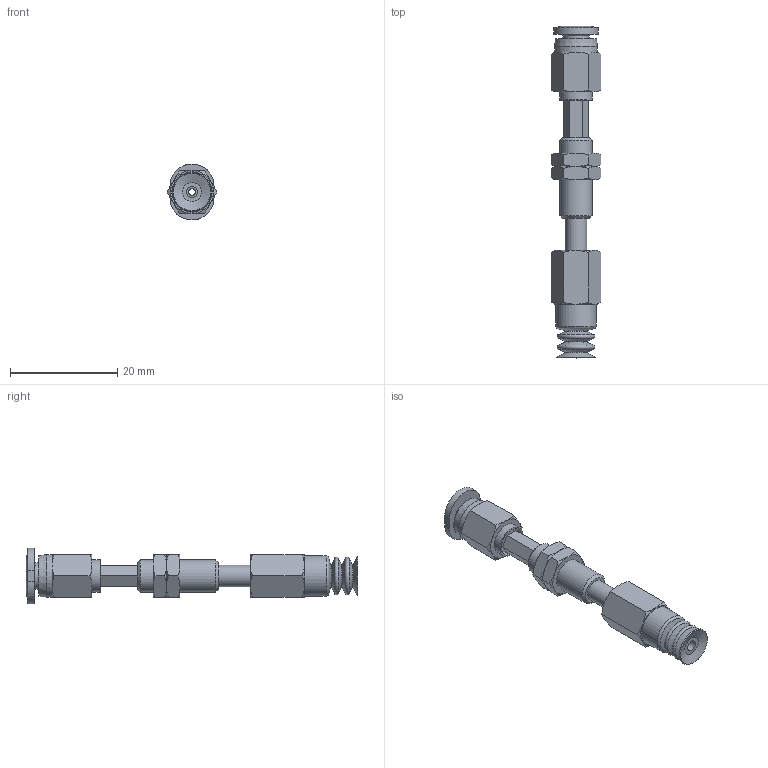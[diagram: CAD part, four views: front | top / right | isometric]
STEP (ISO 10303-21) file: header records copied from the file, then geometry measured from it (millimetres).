
FILE_DESCRIPTION(('STEP AP203'),'1');
FILE_NAME('-O.stp','2025-08-27T01:59:32',(' '),(' '),'Spatial InterOp 3D',' ',' ');
FILE_SCHEMA(('CONFIG_CONTROL_DESIGN'));
Length unit declared in the file: millimetre
Products named in the file (7): BNABPCTS-7-6-※-O; ADAPTER; NAPCTS-7-6-MBODY; Nut napc_s-7-6; NAPCTS-7-6-FBODY; BPCG-7-※; PC-C_04-M3
Assembly tree (7 placements, depth 2):
  BNABPCTS-7-6-※-O
    ADAPTER
    NAPCTS-7-6-MBODY
    Nut napc_s-7-6  x2
    NAPCTS-7-6-FBODY
    BPCG-7-※
    PC-C_04-M3
Bounding box: 9.24 x 61.77 x 10.4 mm (x, y, z)
Volume: 1562.3 mm3; surface area: 3106.3 mm2
Topology: 6 solids, 8 shells, 175 faces, 354 edges, 207 vertices
Faces by surface type: cone 68, plane 64, cylinder 23, torus 13, bspline 4, revolution 3
Full cylindrical faces by diameter (mm): 1.2 x2, 2 x1, 2.459 x1, 2.5 x2, 3 x1, 4 x4, 4.9 x1, 5.188 x2, 6 x4, 6.1 x1, 7.5 x1, 8 x1
Entity records: 4340 total; most frequent: CARTESIAN_POINT 1148, DIRECTION 601, ORIENTED_EDGE 498, AXIS2_PLACEMENT_3D 272, EDGE_CURVE 250, EDGE_LOOP 227, VERTEX_POINT 175, FACE_OUTER_BOUND 125
